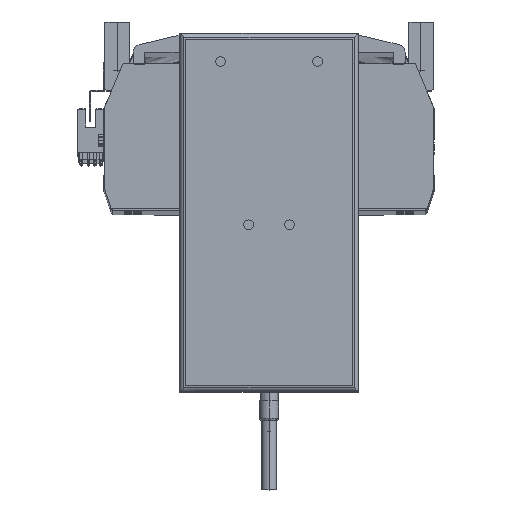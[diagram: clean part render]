
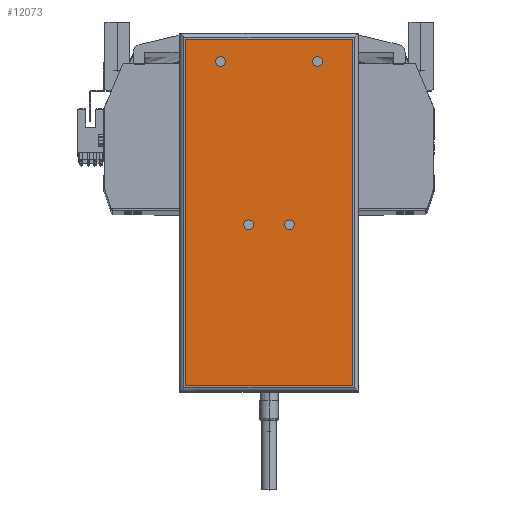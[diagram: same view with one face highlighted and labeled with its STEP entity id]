
A CAD part, top view. The second image highlights one B-rep face of the part: STEP entity #12073.
In plain terms, the highlighted planar face has unit normal (0, 0, 1) as drawn and (0, 0, -1) by its records, which use the part's own axes.
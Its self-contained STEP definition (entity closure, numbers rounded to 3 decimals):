
#176 = CIRCLE ( 'NONE', #32861, 2.5 ) ;
#208 = AXIS2_PLACEMENT_3D ( 'NONE', #51195, #31208, #22600 ) ;
#591 = CARTESIAN_POINT ( 'NONE',  ( -46., 89.25, 0. ) ) ;
#770 = EDGE_LOOP ( 'NONE', ( #11241, #21606 ) ) ;
#873 = PLANE ( 'NONE',  #2169 ) ;
#1002 = CARTESIAN_POINT ( 'NONE',  ( -43., -92.25, 0. ) ) ;
#1623 = VERTEX_POINT ( 'NONE', #47433 ) ;
#2169 = AXIS2_PLACEMENT_3D ( 'NONE', #50144, #45486, #49960 ) ;
#2238 = DIRECTION ( 'NONE',  ( -1., 0., 0. ) ) ;
#2506 = EDGE_CURVE ( 'NONE', #17156, #51073, #4611, .T. ) ;
#2969 = DIRECTION ( 'NONE',  ( -1., 0., 0. ) ) ;
#3655 = ORIENTED_EDGE ( 'NONE', *, *, #4775, .F. ) ;
#4611 = LINE ( 'NONE', #27554, #49638 ) ;
#4775 = EDGE_CURVE ( 'NONE', #1623, #26138, #35053, .T. ) ;
#4907 = EDGE_CURVE ( 'NONE', #30911, #13953, #18242, .T. ) ;
#5057 = EDGE_CURVE ( 'NONE', #43681, #17882, #25339, .T. ) ;
#6369 = CIRCLE ( 'NONE', #7807, 2.5 ) ;
#7807 = AXIS2_PLACEMENT_3D ( 'NONE', #39621, #28191, #53032 ) ;
#8327 = CARTESIAN_POINT ( 'NONE',  ( -43., -89.25, 0. ) ) ;
#9025 = EDGE_LOOP ( 'NONE', ( #3655, #45712 ) ) ;
#9296 = CARTESIAN_POINT ( 'NONE',  ( 43., -92.25, 0. ) ) ;
#10856 = LINE ( 'NONE', #9296, #22486 ) ;
#11241 = ORIENTED_EDGE ( 'NONE', *, *, #50851, .F. ) ;
#11357 = CARTESIAN_POINT ( 'NONE',  ( 13., -6.25, 0. ) ) ;
#12073 = ADVANCED_FACE ( 'NONE', ( #28629, #15781, #49215, #44768, #42199 ), #873, .F. ) ;
#13090 = CARTESIAN_POINT ( 'NONE',  ( 43., 89.25, 0. ) ) ;
#13736 = EDGE_CURVE ( 'NONE', #13953, #30911, #176, .T. ) ;
#13953 = VERTEX_POINT ( 'NONE', #47436 ) ;
#14268 = DIRECTION ( 'NONE',  ( 0., 0., -1. ) ) ;
#14291 = EDGE_CURVE ( 'NONE', #51073, #47529, #49652, .T. ) ;
#15432 = DIRECTION ( 'NONE',  ( 0., 0., -1. ) ) ;
#15781 = FACE_BOUND ( 'NONE', #40569, .T. ) ;
#15930 = EDGE_CURVE ( 'NONE', #47529, #44110, #16051, .T. ) ;
#16051 = LINE ( 'NONE', #591, #48887 ) ;
#16336 = DIRECTION ( 'NONE',  ( -1., 0., 0. ) ) ;
#16463 = EDGE_CURVE ( 'NONE', #44110, #17156, #10856, .T. ) ;
#17156 = VERTEX_POINT ( 'NONE', #17971 ) ;
#17754 = DIRECTION ( 'NONE',  ( 0., -1., 0. ) ) ;
#17882 = VERTEX_POINT ( 'NONE', #52264 ) ;
#17971 = CARTESIAN_POINT ( 'NONE',  ( 43., -89.25, 0. ) ) ;
#18242 = CIRCLE ( 'NONE', #40237, 2.5 ) ;
#18851 = CIRCLE ( 'NONE', #39606, 2.5 ) ;
#21606 = ORIENTED_EDGE ( 'NONE', *, *, #35036, .F. ) ;
#21970 = DIRECTION ( 'NONE',  ( 0., 0., -1. ) ) ;
#22200 = DIRECTION ( 'NONE',  ( -1., 0., 0. ) ) ;
#22486 = VECTOR ( 'NONE', #17754, 1000. ) ;
#22600 = DIRECTION ( 'NONE',  ( -1., 0., 0. ) ) ;
#22866 = CIRCLE ( 'NONE', #208, 2.5 ) ;
#23102 = ORIENTED_EDGE ( 'NONE', *, *, #5057, .F. ) ;
#23744 = DIRECTION ( 'NONE',  ( -1., 0., 0. ) ) ;
#23769 = ORIENTED_EDGE ( 'NONE', *, *, #13736, .F. ) ;
#24693 = EDGE_CURVE ( 'NONE', #17882, #43681, #40605, .T. ) ;
#25339 = CIRCLE ( 'NONE', #41253, 2.5 ) ;
#25432 = CARTESIAN_POINT ( 'NONE',  ( 8., -6.25, 0. ) ) ;
#25894 = VECTOR ( 'NONE', #25997, 1000. ) ;
#25997 = DIRECTION ( 'NONE',  ( 0., 1., 0. ) ) ;
#26122 = EDGE_CURVE ( 'NONE', #26138, #1623, #6369, .T. ) ;
#26138 = VERTEX_POINT ( 'NONE', #40823 ) ;
#26846 = CARTESIAN_POINT ( 'NONE',  ( -25., 77.75, 0. ) ) ;
#27326 = ORIENTED_EDGE ( 'NONE', *, *, #2506, .T. ) ;
#27469 = CARTESIAN_POINT ( 'NONE',  ( 22.5, 77.75, 0. ) ) ;
#27554 = CARTESIAN_POINT ( 'NONE',  ( -46., -89.25, 0. ) ) ;
#28191 = DIRECTION ( 'NONE',  ( 0., 0., -1. ) ) ;
#28629 = FACE_OUTER_BOUND ( 'NONE', #40890, .T. ) ;
#28791 = DIRECTION ( 'NONE',  ( -1., 0., 0. ) ) ;
#29344 = DIRECTION ( 'NONE',  ( 1., 0., 0. ) ) ;
#30911 = VERTEX_POINT ( 'NONE', #27469 ) ;
#31208 = DIRECTION ( 'NONE',  ( 0., 0., -1. ) ) ;
#31351 = DIRECTION ( 'NONE',  ( 0., 0., -1. ) ) ;
#32386 = CARTESIAN_POINT ( 'NONE',  ( -8., -6.25, 0. ) ) ;
#32777 = DIRECTION ( 'NONE',  ( 0., 0., -1. ) ) ;
#32861 = AXIS2_PLACEMENT_3D ( 'NONE', #53042, #33078, #16336 ) ;
#33078 = DIRECTION ( 'NONE',  ( 0., 0., -1. ) ) ;
#35036 = EDGE_CURVE ( 'NONE', #35115, #38645, #18851, .T. ) ;
#35053 = CIRCLE ( 'NONE', #37787, 2.5 ) ;
#35115 = VERTEX_POINT ( 'NONE', #11357 ) ;
#35756 = ORIENTED_EDGE ( 'NONE', *, *, #16463, .T. ) ;
#36640 = ORIENTED_EDGE ( 'NONE', *, *, #24693, .F. ) ;
#36948 = CARTESIAN_POINT ( 'NONE',  ( -43., 89.25, 0. ) ) ;
#37474 = CARTESIAN_POINT ( 'NONE',  ( 25., 77.75, 0. ) ) ;
#37772 = ORIENTED_EDGE ( 'NONE', *, *, #15930, .T. ) ;
#37787 = AXIS2_PLACEMENT_3D ( 'NONE', #26846, #14268, #22200 ) ;
#38645 = VERTEX_POINT ( 'NONE', #25432 ) ;
#38801 = ORIENTED_EDGE ( 'NONE', *, *, #4907, .F. ) ;
#39606 = AXIS2_PLACEMENT_3D ( 'NONE', #43424, #31351, #2238 ) ;
#39621 = CARTESIAN_POINT ( 'NONE',  ( -25., 77.75, 0. ) ) ;
#40126 = CARTESIAN_POINT ( 'NONE',  ( -10.5, -6.25, 0. ) ) ;
#40237 = AXIS2_PLACEMENT_3D ( 'NONE', #37474, #32777, #28791 ) ;
#40569 = EDGE_LOOP ( 'NONE', ( #36640, #23102 ) ) ;
#40605 = CIRCLE ( 'NONE', #45012, 2.5 ) ;
#40823 = CARTESIAN_POINT ( 'NONE',  ( -22.5, 77.75, 0. ) ) ;
#40890 = EDGE_LOOP ( 'NONE', ( #35756, #27326, #41800, #37772 ) ) ;
#41253 = AXIS2_PLACEMENT_3D ( 'NONE', #46621, #21970, #46446 ) ;
#41800 = ORIENTED_EDGE ( 'NONE', *, *, #14291, .T. ) ;
#42199 = FACE_BOUND ( 'NONE', #45601, .T. ) ;
#43424 = CARTESIAN_POINT ( 'NONE',  ( 10.5, -6.25, 0. ) ) ;
#43681 = VERTEX_POINT ( 'NONE', #32386 ) ;
#44110 = VERTEX_POINT ( 'NONE', #13090 ) ;
#44768 = FACE_BOUND ( 'NONE', #9025, .T. ) ;
#45012 = AXIS2_PLACEMENT_3D ( 'NONE', #40126, #15432, #23744 ) ;
#45486 = DIRECTION ( 'NONE',  ( 0., 0., 1. ) ) ;
#45601 = EDGE_LOOP ( 'NONE', ( #38801, #23769 ) ) ;
#45712 = ORIENTED_EDGE ( 'NONE', *, *, #26122, .F. ) ;
#46446 = DIRECTION ( 'NONE',  ( -1., 0., 0. ) ) ;
#46621 = CARTESIAN_POINT ( 'NONE',  ( -10.5, -6.25, 0. ) ) ;
#47433 = CARTESIAN_POINT ( 'NONE',  ( -27.5, 77.75, 0. ) ) ;
#47436 = CARTESIAN_POINT ( 'NONE',  ( 27.5, 77.75, 0. ) ) ;
#47529 = VERTEX_POINT ( 'NONE', #36948 ) ;
#48887 = VECTOR ( 'NONE', #29344, 1000. ) ;
#49215 = FACE_BOUND ( 'NONE', #770, .T. ) ;
#49638 = VECTOR ( 'NONE', #2969, 1000. ) ;
#49652 = LINE ( 'NONE', #1002, #25894 ) ;
#49960 = DIRECTION ( 'NONE',  ( 1., 0., 0. ) ) ;
#50144 = CARTESIAN_POINT ( 'NONE',  ( -46., -92.25, 0. ) ) ;
#50851 = EDGE_CURVE ( 'NONE', #38645, #35115, #22866, .T. ) ;
#51073 = VERTEX_POINT ( 'NONE', #8327 ) ;
#51195 = CARTESIAN_POINT ( 'NONE',  ( 10.5, -6.25, 0. ) ) ;
#52264 = CARTESIAN_POINT ( 'NONE',  ( -13., -6.25, 0. ) ) ;
#53032 = DIRECTION ( 'NONE',  ( -1., 0., 0. ) ) ;
#53042 = CARTESIAN_POINT ( 'NONE',  ( 25., 77.75, 0. ) ) ;
